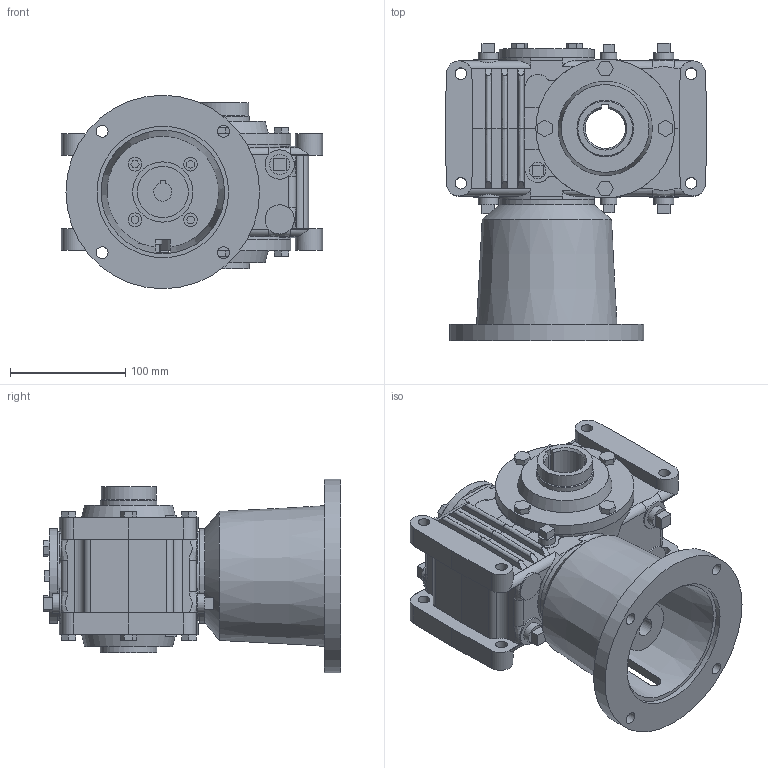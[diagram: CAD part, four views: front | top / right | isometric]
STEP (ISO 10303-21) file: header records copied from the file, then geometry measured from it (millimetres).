
FILE_DESCRIPTION(/* description */ ('Unknown'),/* implementation_level */ '2;1');
FILE_NAME(/* name */ 'HV-20-7AEBNG010',/* time_stamp */ '2024-11-20T14:16:09-05:00',/* author */ ('Unknown'),/* organization */ ('Unknown'),/* preprocessor_version */ 'ST-DEVELOPER v19.4',/* originating_system */ 'Solid Edge',/* authorisation */ 'Unknown');
FILE_SCHEMA (('AUTOMOTIVE_DESIGN {1 0 10303 214 3 1 1}'));
Length unit declared in the file: millimetre
Products named in the file (6): HV-20-7AEBNG010; 20-1A-CP; 20-OUTHS-1375; 20-OUTH-1375; 20-MTR45-56C; 20-WCAP
Assembly tree (5 placements, depth 2):
  HV-20-7AEBNG010
    20-1A-CP
    20-OUTHS-1375
    20-OUTH-1375
    20-MTR45-56C
    20-WCAP
Bounding box: 227.15 x 258.75 x 168.28 mm (x, y, z)
Volume: 2958602 mm3; surface area: 386781.7 mm2
Topology: 6 solids, 6 shells, 499 faces, 1231 edges, 811 vertices
Faces by surface type: plane 338, cylinder 126, bspline 24, cone 11
Full cylindrical faces by diameter (mm): 0.254 x4, 0.635 x1, 1.27 x2, 7.938 x8, 10.033 x8, 10.319 x4, 11.906 x4, 14.287 x4, 17.45 x1, 17.462 x4, 17.475 x1, 18.952 x1, 20.828 x2, 25.4 x8, 44.45 x1, 47.625 x1, 49.2 x4, 50.47 x2, 50.8 x1, 52.07 x1, 52.324 x1, 82.55 x2, 114.338 x1, 120.65 x2, 168.275 x1
Entity records: 16537 total; most frequent: CARTESIAN_POINT 3660, DIRECTION 2292, ORIENTED_EDGE 2228, EDGE_CURVE 1114, AXIS2_PLACEMENT_3D 780, VERTEX_POINT 771, LINE 732, VECTOR 732
